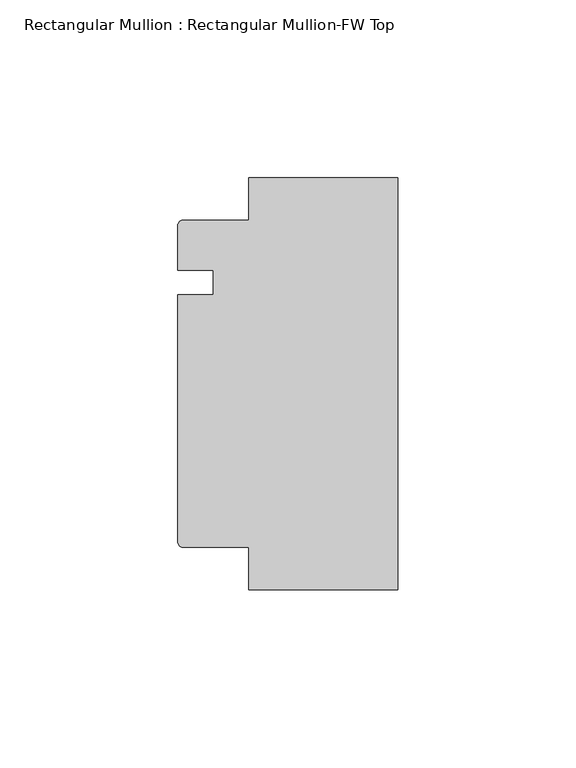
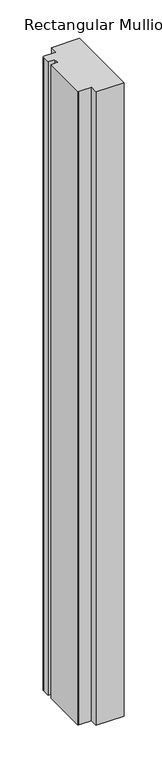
"""IFC4 building model written with IfcOpenShell, lengths in millimetres: member geometry, Rectangular Mullion : Rectangular Mullion-FW Top."""

from ifc_helpers import new_model, si_unit, point, frame, frame_2d, origin, place, context, project, spatial, polyline, circle_curve, trimmed, segment, composite_curve, outline, extrude, source, transform, mapped, element, save


def rectangular_mullion_rectangular_mullion_fw_top_1aba9e78(model_context):
    return source(origin(), model_context, "Body", "SweptSolid", [
        extrude(outline(composite_curve([segment(trimmed(circle_curve(frame_2d((-60.5201031, -90.5201031)), 1.4798969), [point((-60.5201031, -92.0))], [point((-62.0, -90.5201031))], False, "CARTESIAN"), True, "CONTINUOUS"), segment(polyline([(-62.0, -90.5201031), (-62.0, -21.0), (-52.0, -21.0), (-52.0, -14.0), (-62.0, -14.0), (-62.0, -1.4798969)]), True, "CONTINUOUS"), segment(trimmed(circle_curve(frame_2d((-60.5201031, -1.4798969)), 1.4798969), [point((-62.0, -1.4798969))], [point((-60.5201031, 0.0))], False, "CARTESIAN"), True, "CONTINUOUS"), segment(polyline([(-60.5201031, 0.0), (-42.0, 0.0), (-42.0, 12.0), (0.0, 12.0), (0.0, -104.0), (-42.0, -104.0), (-42.0, -92.0), (-60.5201031, -92.0)]), True, "CONTINUOUS")], self_intersect=False)), frame((0.0, 0.0, -1008.0), z_axis=(0.0, 0.0, 1.0), x_axis=(1.0, 0.0, 0.0)), (0.0, 0.0, 1.0), 1008.0),
    ])


if __name__ == "__main__":
    model = new_model("IFC4")
    model_context = context("Model", 3, world=origin())
    ifc_project = project(units=[si_unit("LENGTHUNIT", "METRE", prefix="MILLI")], contexts=[model_context])
    site = spatial("IfcSite", under=ifc_project)
    building = spatial("IfcBuilding", under=site)
    placement = place(None, origin())
    rectangular_mullion_rectangular_mullion_fw_top_shape = rectangular_mullion_rectangular_mullion_fw_top_1aba9e78(model_context)
    element("IfcMember", 1, ObjectType="Rectangular Mullion : Rectangular Mullion-FW Top", at=placement, inside=building, context=model_context, shape_type="MappedRepresentation", body=[
        mapped(rectangular_mullion_rectangular_mullion_fw_top_shape, transform((0.0, 0.0, 0.0), x_axis=(1.0, 0.0, 0.0), y_axis=(0.0, 1.0, 0.0), z_axis=(0.0, 0.0, 1.0))),
    ])
    save(model, "model.ifc")
